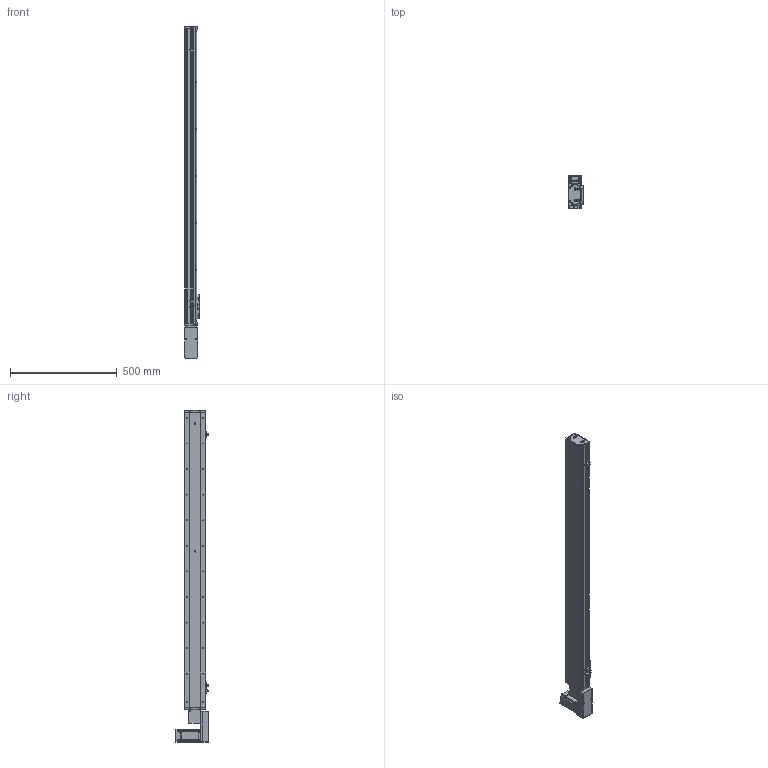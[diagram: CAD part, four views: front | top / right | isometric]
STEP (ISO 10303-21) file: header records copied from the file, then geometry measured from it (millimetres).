
FILE_DESCRIPTION (( 'STEP AP214' ), '1' );
FILE_NAME ('KSD100B-S1200-MRB-CR.STEP', '2019-09-07T09:15:57', ( '微软用户' ), ( '微软中国' ), 'SwSTEP 2.0', 'SolidWorks 2014', '' );
FILE_SCHEMA (( 'AUTOMOTIVE_DESIGN' ));
Length unit declared in the file: millimetre
Products named in the file (15): 感应片100宽全封闭; 100宽马达安装板同步带右; 100遵鎮湛假蚾啣蜊; MHMD042G1CA_2_03; 100宽端板同步带全封闭; 100宽滚珠螺姆安装板1防护罩; 100宽滚珠螺姆安装板1; 100遵裔啣揤啣; 100遵裔啣1200俴最; 100宽侧板1200行程同步带; 100宽底板全封闭1200行程同步带; 悵誘欶奻狟殏; KSD100B-S1200-MRB-CR; 100宽马达安装板连板上下折丝杆同步带; U倰嫖萇EEㄜSX672
Assembly tree (18 placements, depth 2):
  KSD100B-S1200-MRB-CR
    100宽底板全封闭1200行程同步带
    100宽侧板1200行程同步带  x2
    100遵裔啣1200俴最
    100遵裔啣揤啣  x2
    100宽滚珠螺姆安装板1
    100宽滚珠螺姆安装板1防护罩
    100宽端板同步带全封闭
    100遵鎮湛假蚾啣蜊
    100宽马达安装板同步带右
    感应片100宽全封闭
    U倰嫖萇EEㄜSX672  x3
    100宽马达安装板连板上下折丝杆同步带
    悵誘欶奻狟殏
    MHMD042G1CA_2_03
Bounding box: 70 x 156.2 x 1557 mm (x, y, z)
Volume: 2860078.3 mm3; surface area: 1259500.2 mm2
Topology: 17 solids, 18 shells, 1869 faces, 5224 edges, 3323 vertices
Faces by surface type: cylinder 845, plane 737, cone 267, bspline 20
Entity records: 66400 total; most frequent: CARTESIAN_POINT 10226, DIRECTION 9092, ORIENTED_EDGE 8368, EDGE_CURVE 4256, AXIS2_PLACEMENT_3D 3307, VERTEX_POINT 2821, LINE 2478, VECTOR 2478
